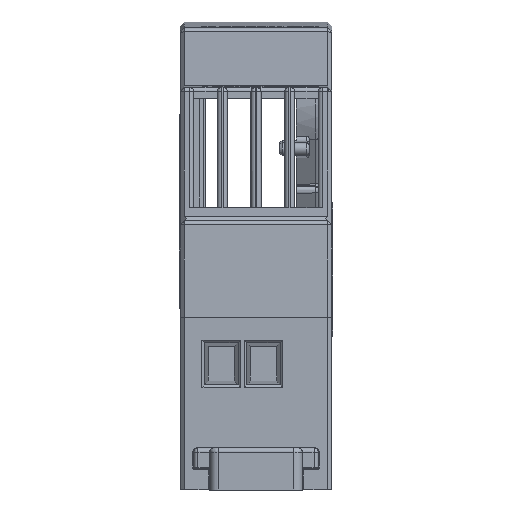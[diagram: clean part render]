
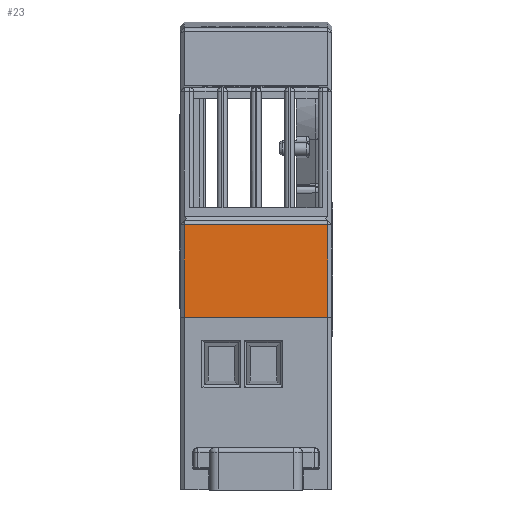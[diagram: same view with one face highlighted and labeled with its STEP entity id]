
A CAD part, front view. The second image highlights one B-rep face of the part: STEP entity #23.
In plain terms, the highlighted planar face has unit normal (0, -1, 0.026) as drawn and (-0.026, 0, 1) by its records, which use the part's own axes.
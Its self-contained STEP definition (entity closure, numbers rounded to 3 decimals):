
#23 = ADVANCED_FACE ( 'NONE', ( #14640 ), #14067, .F. ) ;
#406 = ORIENTED_EDGE ( 'NONE', *, *, #35852, .T. ) ;
#3675 = CARTESIAN_POINT ( 'NONE',  ( 11.5, 0.5, -0.5 ) ) ;
#7964 = DIRECTION ( 'NONE',  ( -1., 0., -0.026 ) ) ;
#10485 = EDGE_CURVE ( 'NONE', #55880, #69608, #52263, .T. ) ;
#12488 = LINE ( 'NONE', #68228, #14560 ) ;
#14067 = PLANE ( 'NONE',  #42325 ) ;
#14560 = VECTOR ( 'NONE', #81008, 1000. ) ;
#14640 = FACE_OUTER_BOUND ( 'NONE', #28178, .T. ) ;
#19385 = ORIENTED_EDGE ( 'NONE', *, *, #53474, .F. ) ;
#21623 = VECTOR ( 'NONE', #48542, 1000. ) ;
#22721 = VERTEX_POINT ( 'NONE', #68524 ) ;
#24356 = VECTOR ( 'NONE', #69386, 1000. ) ;
#27421 = LINE ( 'NONE', #76080, #24356 ) ;
#28178 = EDGE_LOOP ( 'NONE', ( #406, #30896, #19385, #74028 ) ) ;
#30896 = ORIENTED_EDGE ( 'NONE', *, *, #10485, .T. ) ;
#35852 = EDGE_CURVE ( 'NONE', #65879, #55880, #53915, .T. ) ;
#39834 = CARTESIAN_POINT ( 'NONE',  ( 0.487, 17.5, -0.784 ) ) ;
#42325 = AXIS2_PLACEMENT_3D ( 'NONE', #60565, #60840, #7964 ) ;
#48044 = VECTOR ( 'NONE', #78989, 1000. ) ;
#48542 = DIRECTION ( 'NONE',  ( 0., -1., 0. ) ) ;
#51457 = CARTESIAN_POINT ( 'NONE',  ( 11.5, 0.5, -0.5 ) ) ;
#52263 = LINE ( 'NONE', #51457, #48044 ) ;
#53474 = EDGE_CURVE ( 'NONE', #22721, #69608, #27421, .T. ) ;
#53915 = LINE ( 'NONE', #61879, #21623 ) ;
#55880 = VERTEX_POINT ( 'NONE', #64527 ) ;
#60565 = CARTESIAN_POINT ( 'NONE',  ( 11.5, 18., -0.5 ) ) ;
#60840 = DIRECTION ( 'NONE',  ( 0.026, 0., -1. ) ) ;
#61879 = CARTESIAN_POINT ( 'NONE',  ( 0.487, 18., -0.784 ) ) ;
#64527 = CARTESIAN_POINT ( 'NONE',  ( 0.487, 0.5, -0.784 ) ) ;
#65879 = VERTEX_POINT ( 'NONE', #39834 ) ;
#68228 = CARTESIAN_POINT ( 'NONE',  ( 11.5, 17.5, -0.5 ) ) ;
#68524 = CARTESIAN_POINT ( 'NONE',  ( 11.5, 17.5, -0.5 ) ) ;
#69386 = DIRECTION ( 'NONE',  ( 0., -1., 0. ) ) ;
#69608 = VERTEX_POINT ( 'NONE', #3675 ) ;
#74028 = ORIENTED_EDGE ( 'NONE', *, *, #77213, .T. ) ;
#76080 = CARTESIAN_POINT ( 'NONE',  ( 11.5, 18., -0.5 ) ) ;
#77213 = EDGE_CURVE ( 'NONE', #22721, #65879, #12488, .T. ) ;
#78989 = DIRECTION ( 'NONE',  ( 1., 0., 0.026 ) ) ;
#81008 = DIRECTION ( 'NONE',  ( -1., 0., -0.026 ) ) ;
